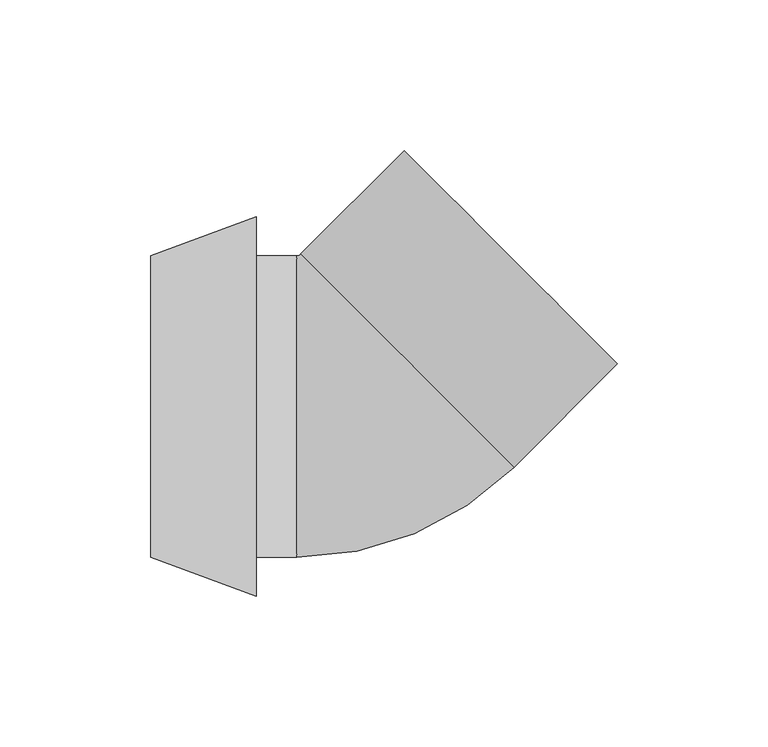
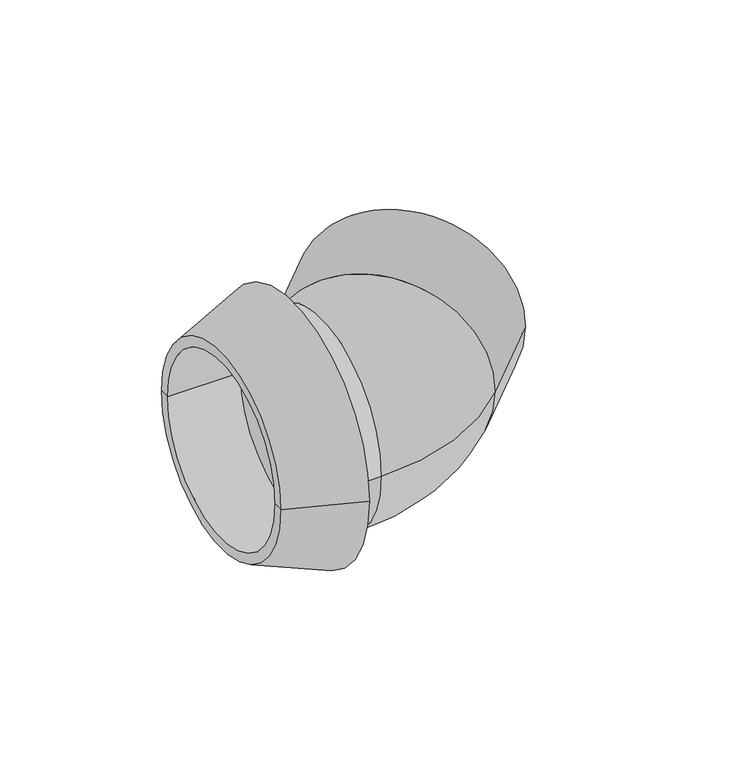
"""IFC4 building model written with IfcOpenShell, lengths in millimetres: duct fitting geometry, NLRS_57_DUF_Easysafe_bocht_M&G : DN100 / 45°."""

from ifc_helpers import new_model, si_unit, point, frame, origin, place, context, project, spatial, polyline, circle_curve, ellipse_curve, trimmed, source, transform, mapped, element, save
from ifc_brep_helpers import plane_surface, cylinder_surface, revolved_surface, advanced_brep


def duct_fitting_0f7bfee0(model_context):
    return source(origin(), model_context, "Body", "AdvancedBrep", [
        advanced_brep(
        [(-35.0, 45.0, 0.0), (-35.0, -45.0, 0.0), (-35.0, -63.0, 0.0), (-35.0, 63.0, 0.0), (-70.0, -50.0, 0.0), (-70.0, 50.0, 0.0), (-70.0, 45.0, 0.0), (-70.0, -45.0, 0.0)],
        [
            (0, 1, circle_curve(frame((-35.0, 0.0, 0.0), z_axis=(-1.0, 0.0, 0.0), x_axis=(0.0, -1.0, 0.0)), 45.0)),
            (1, 2),
            (2, 3, circle_curve(frame((-35.0, 0.0, 0.0), z_axis=(1.0, 0.0, 0.0), x_axis=(0.0, -1.0, 0.0)), 63.0)),
            (3, 0),
            (1, 0, circle_curve(frame((-35.0, 0.0, 0.0), z_axis=(-1.0, 0.0, 0.0), x_axis=(0.0, -1.0, 0.0)), 45.0)),
            (3, 2, circle_curve(frame((-35.0, 0.0, 0.0), z_axis=(1.0, 0.0, 0.0), x_axis=(0.0, -1.0, 0.0)), 63.0)),
            (2, 4, circle_curve(frame((16.8332848, 130.1665359, 0.0), z_axis=(0.0, 0.0, -1.0), x_axis=(0.0, 1.0, 0.0)), 200.0)),
            (4, 5, circle_curve(frame((-70.0, 0.0, 0.0), z_axis=(1.0, 0.0, 0.0), x_axis=(0.0, -1.0, 0.0)), 50.0)),
            (5, 3, circle_curve(frame((16.8332848, -130.1665359, 0.0), z_axis=(0.0, 0.0, -1.0), x_axis=(0.0, -1.0, 0.0)), 200.0)),
            (5, 4, circle_curve(frame((-70.0, 0.0, 0.0), z_axis=(1.0, 0.0, 0.0), x_axis=(0.0, -1.0, 0.0)), 50.0)),
            (6, 7, circle_curve(frame((-70.0, 0.0, 0.0), z_axis=(-1.0, 0.0, 0.0), x_axis=(0.0, -1.0, 0.0)), 45.0)),
            (7, 1),
            (0, 6),
            (7, 6, circle_curve(frame((-70.0, 0.0, 0.0), z_axis=(-1.0, 0.0, 0.0), x_axis=(0.0, -1.0, 0.0)), 45.0)),
            (4, 7),
            (6, 5),
        ],
        [
            plane_surface(frame((-35.0, 0.0, 0.0), z_axis=(1.0, 0.0, 0.0), x_axis=(0.0, -1.0, 0.0))),
            revolved_surface(trimmed(ellipse_curve(frame((16.8332848, 130.1665359, 0.0), z_axis=(0.0, 0.0, 1.0), x_axis=(0.0, 1.0, 0.0)), 200.0, 200.0), [point((-70.0, -50.0, 0.0))], [point((-35.0, -63.0, 0.0))], True, "CARTESIAN"), (-31.7041329, 0.0, 0.0), (1.0, 0.0, 0.0)),
            revolved_surface(polyline([(-35.0, -45.0, 0.0), (-70.0, -45.0, 0.0)]), (-31.7041329, 0.0, 0.0), (1.0, 0.0, 0.0)),
            plane_surface(frame((-70.0, 0.0, 0.0), z_axis=(-1.0, 0.0, 0.0), x_axis=(0.0, -1.0, 0.0))),
        ],
        [
            (0, [[1, 2, 3, 4]]),
            (0, [[5, -4, 6, -2]]),
            (1, [[-3, 7, 8, 9]]),
            (1, [[-6, -9, 10, -7]]),
            (2, [[11, 12, -1, 13]]),
            (2, [[14, -13, -5, -12]]),
            (3, [[-8, 15, -11, 16]]),
            (3, [[-10, -16, -14, -15]]),
        ],
    ),
        advanced_brep(
        [(14.1421356, 84.8528137, 0.0), (84.8528137, 14.1421356, 0.0), (-20.1248917, 50.5857864, 0.0), (50.5857864, -20.1248917, 0.0), (-21.5391052, -50.0, 0.0), (-21.5391052, 50.0, 0.0), (-35.0, 50.0, 0.0), (-35.0, -50.0, 0.0)],
        [
            (0, 1, circle_curve(frame((49.4974747, 49.4974747, 0.0), z_axis=(0.7071067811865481, 0.707106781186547, 0.0), x_axis=(0.707106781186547, -0.7071067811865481, 0.0)), 50.0)),
            (1, 0, circle_curve(frame((49.4974747, 49.4974747, 0.0), z_axis=(0.7071067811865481, 0.707106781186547, 0.0), x_axis=(0.707106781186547, -0.7071067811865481, 0.0)), 50.0)),
            (0, 2),
            (2, 3, circle_curve(frame((15.2304474, 15.2304474, 0.0), z_axis=(0.7071067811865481, 0.707106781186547, 0.0), x_axis=(0.707106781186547, -0.7071067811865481, 0.0)), 50.0)),
            (3, 1),
            (3, 2, circle_curve(frame((15.2304474, 15.2304474, 0.0), z_axis=(0.7071067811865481, 0.707106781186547, 0.0), x_axis=(0.707106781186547, -0.7071067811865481, 0.0)), 50.0)),
            (4, 3, circle_curve(frame((-21.5391052, 52.0, 0.0), z_axis=(0.0, 0.0, 1.0), x_axis=(0.707106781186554, -0.707106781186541, 0.0)), 102.0)),
            (2, 5, circle_curve(frame((-21.5391052, 52.0, 0.0), z_axis=(0.0, 0.0, -1.0), x_axis=(0.707106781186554, -0.707106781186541, 0.0)), 2.0)),
            (5, 4, circle_curve(frame((-21.5391052, 0.0, 0.0), z_axis=(1.0, 0.0, 0.0), x_axis=(0.0, -1.0, 0.0)), 50.0)),
            (4, 5, circle_curve(frame((-21.5391052, 0.0, 0.0), z_axis=(1.0, 0.0, 0.0), x_axis=(0.0, -1.0, 0.0)), 50.0)),
            (6, 7, circle_curve(frame((-35.0, 0.0, 0.0), z_axis=(-1.0, 0.0, 0.0), x_axis=(0.0, -1.0, 0.0)), 50.0)),
            (7, 6, circle_curve(frame((-35.0, 0.0, 0.0), z_axis=(-1.0, 0.0, 0.0), x_axis=(0.0, -1.0, 0.0)), 50.0)),
            (5, 6),
            (7, 4),
        ],
        [
            plane_surface(frame((49.4974747, 49.4974747, 0.0), z_axis=(0.7071067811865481, 0.707106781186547, 0.0), x_axis=(0.0, 0.0, 1.0))),
            cylinder_surface(frame((49.4974747, 49.4974747, 0.0), z_axis=(0.7071067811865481, 0.707106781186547, 0.0), x_axis=(0.707106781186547, -0.7071067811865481, 0.0)), 50.0),
            revolved_surface(trimmed(ellipse_curve(frame((15.2304474, 15.2304474, 0.0), z_axis=(0.7071067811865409, 0.7071067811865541, 0.0), x_axis=(0.7071067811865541, -0.7071067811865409, 0.0)), 50.0, 50.0), [point((-20.1248917, 50.5857864, 0.0))], [point((50.5857864, -20.1248917, 0.0))], True, "CARTESIAN"), (-21.5391052, 52.0, 0.0), (0.0, 0.0, -1.0)),
            revolved_surface(trimmed(ellipse_curve(frame((15.2304474, 15.2304474, 0.0), z_axis=(0.7071067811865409, 0.7071067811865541, 0.0), x_axis=(0.7071067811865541, -0.7071067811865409, 0.0)), 50.0, 50.0), [point((50.5857864, -20.1248917, 0.0))], [point((-20.1248917, 50.5857864, 0.0))], True, "CARTESIAN"), (-21.5391052, 52.0, 0.0), (0.0, 0.0, -1.0)),
            plane_surface(frame((-35.0, 0.0, 0.0), z_axis=(-1.0, 0.0, 0.0), x_axis=(0.0, 0.0, 1.0))),
            cylinder_surface(frame((-21.5391052, 0.0, 0.0), z_axis=(1.0, 0.0, 0.0), x_axis=(0.0, -1.0, 0.0)), 50.0),
        ],
        [
            (0, [[1, 2]]),
            (1, [[-1, 3, 4, 5]]),
            (1, [[-2, -5, 6, -3]]),
            (2, [[7, -4, 8, 9]]),
            (3, [[-8, -6, -7, 10]]),
            (4, [[11, 12]]),
            (5, [[-9, 13, -12, 14]]),
            (5, [[-10, -14, -11, -13]]),
        ],
    ),
    ])


if __name__ == "__main__":
    model = new_model("IFC4")
    model_context = context("Model", 3, world=origin())
    ifc_project = project(units=[si_unit("LENGTHUNIT", "METRE", prefix="MILLI")], contexts=[model_context])
    site = spatial("IfcSite", under=ifc_project)
    building = spatial("IfcBuilding", under=site)
    placement = place(None, origin())
    duct_fitting_shape = duct_fitting_0f7bfee0(model_context)
    element("IfcDuctFitting", 1, ObjectType="NLRS_57_DUF_Easysafe_bocht_M&G : DN100 / 45°", at=placement, inside=building, context=model_context, shape_type="MappedRepresentation", body=[
        mapped(duct_fitting_shape, transform((0.0, 0.0, 0.0), x_axis=(1.0, 0.0, 0.0), y_axis=(0.0, 1.0, 0.0), z_axis=(0.0, 0.0, 1.0))),
    ])
    save(model, "model.ifc")
